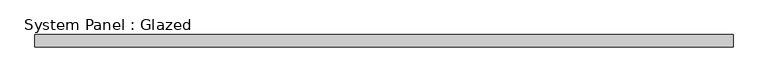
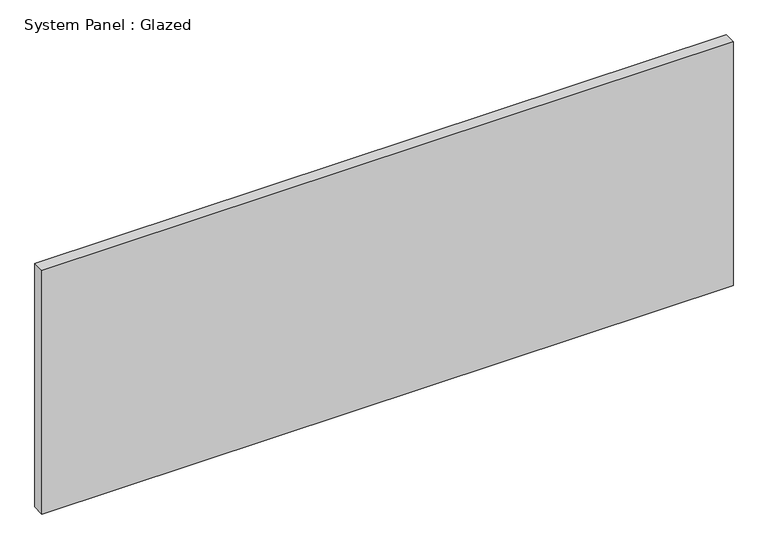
"""IFC4 building model written with IfcOpenShell, lengths in millimetres: plate geometry, System Panel : Glazed."""

from ifc_helpers import new_model, si_unit, origin, origin_with_axes, place, context, project, spatial, polyline, outline, extrude, source, transform, mapped, element, save


def system_panel_glazed_a4569942(model_context):
    return source(origin(), model_context, "Body", "SweptSolid", [
        extrude(outline(polyline([(704.0732534, 24.5), (-704.0732534, 24.5), (-704.0732534, 49.5), (704.0732534, 49.5), (704.0732534, 24.5)])), origin_with_axes(), (0.0, 0.0, 1.0), 525.0),
    ])


if __name__ == "__main__":
    model = new_model("IFC4")
    model_context = context("Model", 3, world=origin())
    ifc_project = project(units=[si_unit("LENGTHUNIT", "METRE", prefix="MILLI")], contexts=[model_context])
    site = spatial("IfcSite", under=ifc_project)
    building = spatial("IfcBuilding", under=site)
    placement = place(None, origin())
    system_panel_glazed_shape = system_panel_glazed_a4569942(model_context)
    element("IfcPlate", 1, ObjectType="System Panel : Glazed", at=placement, inside=building, context=model_context, shape_type="MappedRepresentation", body=[
        mapped(system_panel_glazed_shape, transform((0.0, 0.0, 0.0), x_axis=(1.0, 0.0, 0.0), y_axis=(0.0, 1.0, 0.0), z_axis=(0.0, 0.0, 1.0))),
    ])
    save(model, "model.ifc")
